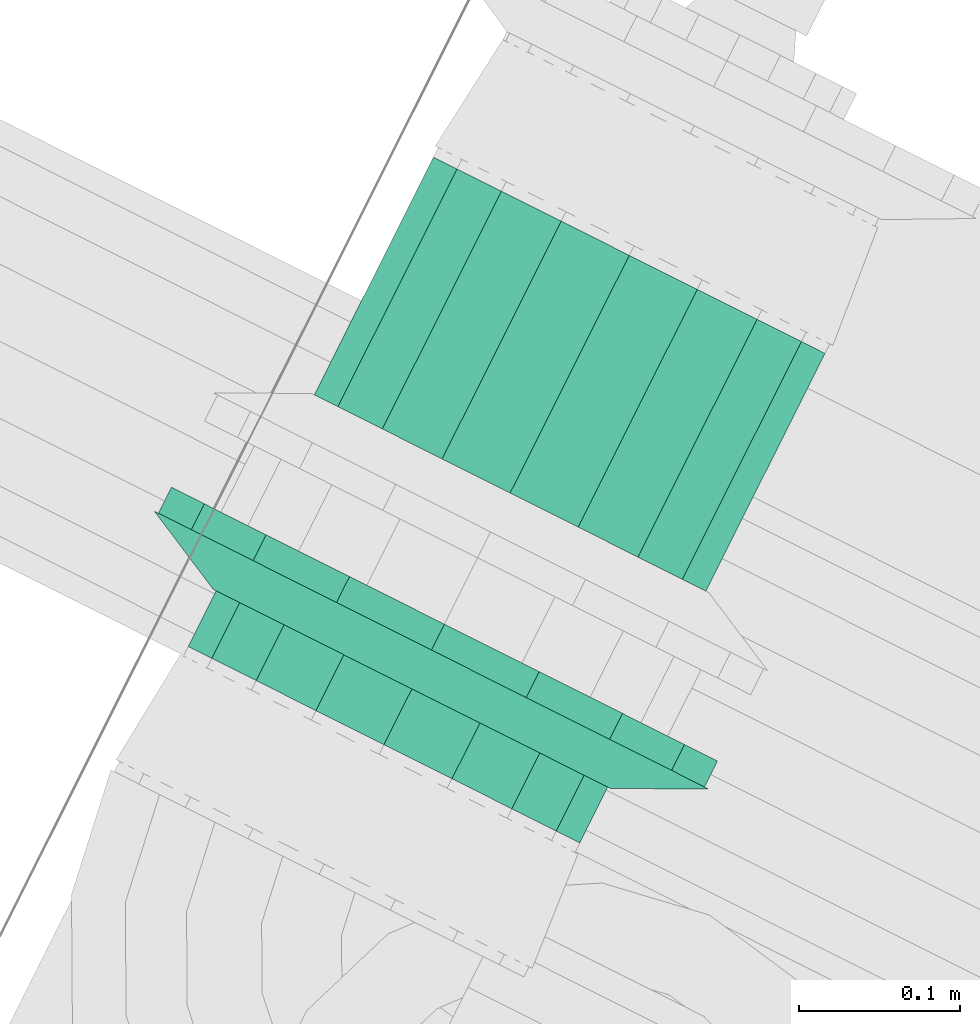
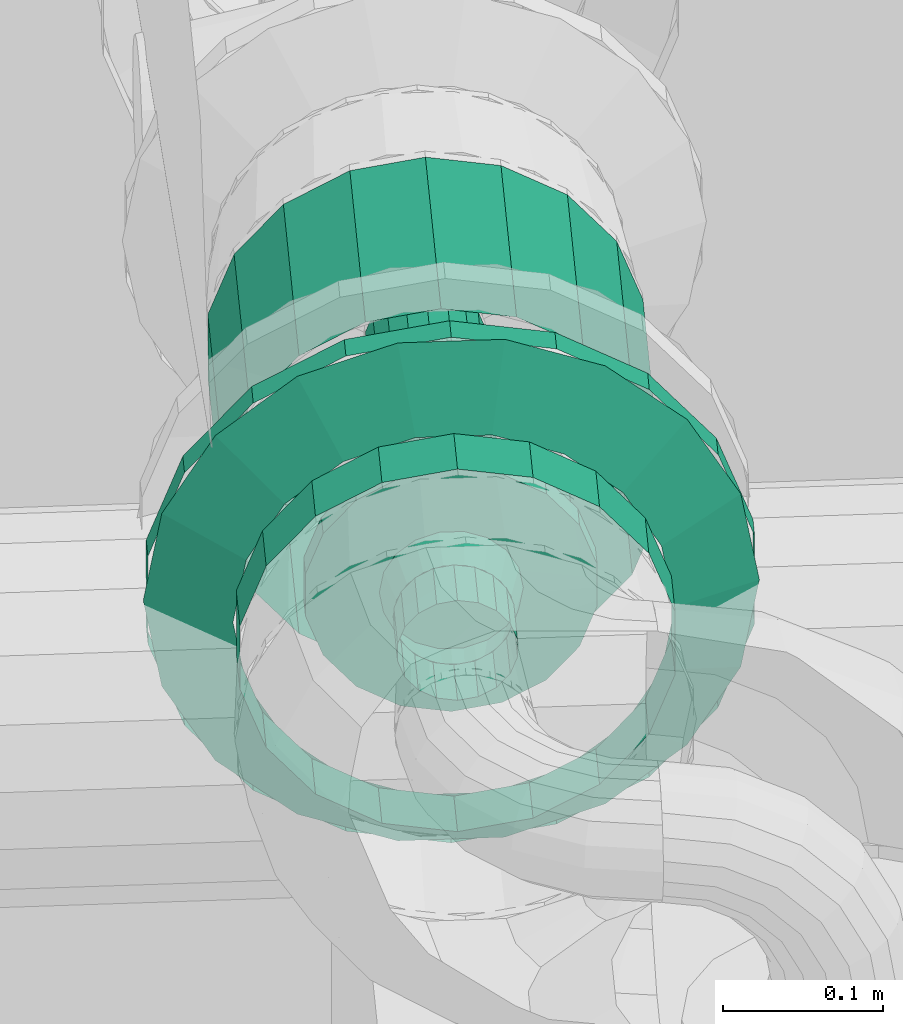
# One storey, part 91 of 206: 2 flow segments, 1 flow fitting.
"""IFC2X3 building model written with IfcOpenShell, lengths in metres."""

from ifc_helpers import new_model, si_unit, derived_unit, direction, frame, origin, place, context, subcontext, project, spatial, face_set, surface_model, source, transform, mapped, material, type_object, type_shapes, element, save


model = new_model("IFC2X3")

# Units and contexts
model_context = context("Model", 3, precision=5.2338327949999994e-05, world=origin(), true_north=direction((0.0, 1.0)))
body_context = subcontext(model_context, "Body", "Model", "MODEL_VIEW")
ifc_project = project(units=[si_unit("LENGTHUNIT", "METRE"), si_unit("AREAUNIT", "SQUARE_METRE"), si_unit("VOLUMEUNIT", "CUBIC_METRE"), si_unit("MASSUNIT", "GRAM", prefix="KILO"), si_unit("PLANEANGLEUNIT", "RADIAN"), derived_unit("THERMALTRANSMITTANCEUNIT", [(si_unit("MASSUNIT", "GRAM", prefix="KILO"), 1), (si_unit("THERMODYNAMICTEMPERATUREUNIT", "KELVIN"), -1), (si_unit("TIMEUNIT", "SECOND"), -3)])], contexts=[model_context])

# Site, building, storey
site_placement = place(None, frame((0.0, 0.0, 0.0), z_axis=(0.0, 0.0, 1.0), x_axis=(0.8939966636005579, -0.4480736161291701, 0.0)))
site = spatial("IfcSite", under=ifc_project, at=site_placement, Name="Default", CompositionType="ELEMENT")
building_placement = place(site_placement, origin())
building = spatial("IfcBuilding", under=site, at=building_placement, CompositionType="ELEMENT")
storey_placement = place(building_placement, origin())
storey = spatial("IfcBuildingStorey", under=building, at=storey_placement, Name="Erdgeschoss", CompositionType="ELEMENT", Elevation=0.0)

# Flow segment
ifc_material = material(Name="IfcSurfaceStyle #1741")
distribution_element_type_1 = type_object("IfcDistributionElementType", Name="Stahlrohr nach DIN 2448 330890:Stahlrohr nach DIN 2448 330890", material=ifc_material)
shared_shape_1 = source(origin(), body_context, "Body", "SurfaceModel", [
    surface_model("IfcFaceBasedSurfaceModel", [(29.960127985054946, 8.677570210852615, 2.2759499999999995), (29.947114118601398, 8.677570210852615, 2.278244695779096), (29.947114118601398, 8.716317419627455, 2.278244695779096), (29.960127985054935, 8.716317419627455, 2.2759500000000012), (29.935669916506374, 8.677570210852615, 2.2848520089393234), (29.935669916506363, 8.716317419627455, 2.284852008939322), (29.927175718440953, 8.677570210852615, 2.2949750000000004), (29.92717571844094, 8.716317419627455, 2.294974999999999), (29.92265605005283, 8.677570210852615, 2.307392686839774), (29.92265605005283, 8.716317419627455, 2.3073926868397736), (29.922656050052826, 8.677570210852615, 2.320607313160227), (29.922656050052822, 8.716317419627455, 2.320607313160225), (29.927175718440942, 8.677570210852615, 2.3330249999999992), (29.927175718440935, 8.716317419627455, 2.333024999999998), (29.935669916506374, 8.677570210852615, 2.3431479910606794), (29.93566991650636, 8.716317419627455, 2.343147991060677), (29.947114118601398, 8.677570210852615, 2.349755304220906), (29.947114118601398, 8.716317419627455, 2.349755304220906), (29.960127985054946, 8.677570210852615, 2.3520499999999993), (29.960127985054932, 8.716317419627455, 2.3520500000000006), (29.973141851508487, 8.677570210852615, 2.3497553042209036), (29.973141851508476, 8.716317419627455, 2.349755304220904), (29.98458605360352, 8.677570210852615, 2.343147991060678), (29.98458605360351, 8.716317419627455, 2.343147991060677), (29.993080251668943, 8.677570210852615, 2.333025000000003), (29.99308025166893, 8.716317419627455, 2.333025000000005), (29.997599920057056, 8.677570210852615, 2.320607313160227), (29.997599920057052, 8.716317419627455, 2.3206073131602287), (29.99759992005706, 8.677570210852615, 2.3073926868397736), (29.997599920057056, 8.716317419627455, 2.3073926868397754), (29.993080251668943, 8.677570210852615, 2.294974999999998), (29.993080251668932, 8.716317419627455, 2.294974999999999), (29.98458605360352, 8.677570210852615, 2.284852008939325), (29.98458605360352, 8.716317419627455, 2.284852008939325), (29.973141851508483, 8.677570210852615, 2.278244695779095), (29.97314185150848, 8.716317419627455, 2.2782446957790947), (29.960127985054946, 8.677570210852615, 2.1759499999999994), (29.912912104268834, 8.677570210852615, 2.184275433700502), (29.91291210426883, 8.716317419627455, 2.184275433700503), (29.960127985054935, 8.716317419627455, 2.175950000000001), (29.87139115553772, 8.677570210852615, 2.2082475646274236), (29.871391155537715, 8.716317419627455, 2.208247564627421), (29.840573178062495, 8.677570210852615, 2.244974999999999), (29.840573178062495, 8.716317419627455, 2.2449749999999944), (29.824175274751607, 8.677570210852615, 2.2900278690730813), (29.8241752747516, 8.716317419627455, 2.290027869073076), (29.824175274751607, 8.677570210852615, 2.3379721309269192), (29.824175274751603, 8.716317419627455, 2.337972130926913), (29.8405731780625, 8.677570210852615, 2.3830250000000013), (29.840573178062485, 8.716317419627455, 2.3830249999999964), (29.871391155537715, 8.677570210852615, 2.4197524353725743), (29.8713911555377, 8.716317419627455, 2.4197524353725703), (29.912912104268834, 8.677570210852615, 2.4437245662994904), (29.912912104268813, 8.716317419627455, 2.443724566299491), (29.960127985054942, 8.677570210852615, 2.45205), (29.96012798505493, 8.716317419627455, 2.4520500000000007), (30.007343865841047, 8.677570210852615, 2.443724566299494), (30.00734386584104, 8.716317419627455, 2.4437245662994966), (30.048864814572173, 8.677570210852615, 2.4197524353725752), (30.04886481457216, 8.716317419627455, 2.4197524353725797), (30.079682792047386, 8.677570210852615, 2.3830249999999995), (30.079682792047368, 8.716317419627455, 2.3830250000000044), (30.09608069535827, 8.677570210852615, 2.3379721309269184), (30.09608069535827, 8.716317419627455, 2.337972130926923), (30.09608069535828, 8.677570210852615, 2.2900278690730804), (30.096080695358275, 8.716317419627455, 2.2900278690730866), (30.079682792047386, 8.677570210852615, 2.244975), (30.079682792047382, 8.716317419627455, 2.2449750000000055), (30.048864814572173, 8.677570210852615, 2.208247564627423), (30.048864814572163, 8.716317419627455, 2.208247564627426), (30.00734386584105, 8.677570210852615, 2.1842754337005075), (30.00734386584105, 8.716317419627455, 2.184275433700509)], [face_set([[[0, 1, 2, 3]], [[1, 4, 5, 2]], [[4, 6, 7, 5]], [[6, 8, 9, 7]], [[8, 10, 11, 9]], [[10, 12, 13, 11]], [[12, 14, 15, 13]], [[14, 16, 17, 15]], [[16, 18, 19, 17]], [[18, 20, 21, 19]], [[20, 22, 23, 21]], [[22, 24, 25, 23]], [[24, 26, 27, 25]], [[26, 28, 29, 27]], [[28, 30, 31, 29]], [[30, 32, 33, 31]], [[32, 34, 35, 33]], [[34, 0, 3, 35]], [[36, 37, 38, 39]], [[37, 40, 41, 38]], [[40, 42, 43, 41]], [[42, 44, 45, 43]], [[44, 46, 47, 45]], [[46, 48, 49, 47]], [[48, 50, 51, 49]], [[50, 52, 53, 51]], [[52, 54, 55, 53]], [[54, 56, 57, 55]], [[56, 58, 59, 57]], [[58, 60, 61, 59]], [[60, 62, 63, 61]], [[62, 64, 65, 63]], [[64, 66, 67, 65]], [[66, 68, 69, 67]], [[68, 70, 71, 69]], [[70, 36, 39, 71]]])]),
])
type_shapes(distribution_element_type_1, [shared_shape_1])
flow_segment_1_placement = place(storey_placement, origin())
element("IfcFlowSegment", 1, at=flow_segment_1_placement, inside=storey, type_object=distribution_element_type_1, material=ifc_material, Name="Stahlrohr nach DIN 2448", ObjectType="Stahlrohr nach DIN 2448", context=body_context, shape_type="MappedRepresentation", body=[
    mapped(shared_shape_1, transform((0.0, 0.0, 0.0), scale=1.0)),
])

# Flow fitting
distribution_element_type_2 = type_object("IfcDistributionElementType", Name="Flansch 331171:Flansch 331171", material=ifc_material)
shared_shape_2 = source(origin(), body_context, "Body", "SurfaceModel", [
    surface_model("IfcFaceBasedSurfaceModel", [(29.92207798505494, 8.716317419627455, 2.314000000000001), (29.924372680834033, 8.716317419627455, 2.3270138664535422), (29.917841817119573, 8.743317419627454, 2.3293909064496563), (29.91512798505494, 8.743317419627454, 2.3140000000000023), (29.930979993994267, 8.716317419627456, 2.338458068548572), (29.925655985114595, 8.743317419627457, 2.3429254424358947), (29.941102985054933, 8.716317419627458, 2.346952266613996), (29.93762798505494, 8.743317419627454, 2.352971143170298), (29.95352067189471, 8.716317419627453, 2.351471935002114), (29.952313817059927, 8.743317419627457, 2.358316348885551), (29.966735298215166, 8.716317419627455, 2.3514719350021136), (29.96794215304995, 8.743317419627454, 2.35831634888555), (29.979152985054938, 8.716317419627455, 2.3469522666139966), (29.98262798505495, 8.743317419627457, 2.3529711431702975), (29.989275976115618, 8.716317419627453, 2.338458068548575), (29.99459998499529, 8.743317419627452, 2.342925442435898), (29.995883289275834, 8.716317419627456, 2.32701386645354), (30.002414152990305, 8.743317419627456, 2.329390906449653), (29.99817798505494, 8.716317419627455, 2.314), (30.005127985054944, 8.743317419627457, 2.314), (29.99588328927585, 8.716317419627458, 2.3009861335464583), (30.00241415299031, 8.743317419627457, 2.2986090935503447), (29.98927597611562, 8.716317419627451, 2.2895419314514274), (29.99459998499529, 8.743317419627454, 2.2850745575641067), (29.979152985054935, 8.716317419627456, 2.281047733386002), (29.982627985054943, 8.743317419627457, 2.275028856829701), (29.966735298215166, 8.716317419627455, 2.276528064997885), (29.96794215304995, 8.743317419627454, 2.26968365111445), (29.95352067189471, 8.716317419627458, 2.2765280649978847), (29.952313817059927, 8.743317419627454, 2.26968365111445), (29.94110298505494, 8.716317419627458, 2.2810477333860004), (29.93762798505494, 8.743317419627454, 2.2750288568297), (29.93097999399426, 8.716317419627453, 2.289541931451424), (29.92565598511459, 8.743317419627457, 2.285074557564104), (29.92437268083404, 8.716317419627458, 2.300986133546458), (29.917841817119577, 8.743317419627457, 2.298609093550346), (29.960127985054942, 8.743317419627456, 2.4065), (29.991764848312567, 8.743317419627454, 2.4009215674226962), (29.991764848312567, 8.761317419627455, 2.4009215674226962), (29.960127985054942, 8.761317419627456, 2.4065), (30.019585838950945, 8.743317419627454, 2.384859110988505), (30.019585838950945, 8.761317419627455, 2.3848591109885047), (30.040235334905, 8.743317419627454, 2.3602500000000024), (30.040235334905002, 8.761317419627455, 2.360250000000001), (30.051222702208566, 8.743317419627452, 2.3300624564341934), (30.051222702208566, 8.761317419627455, 2.3300624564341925), (30.051222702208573, 8.743317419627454, 2.29793754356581), (30.051222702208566, 8.761317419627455, 2.2979375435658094), (30.040235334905, 8.743317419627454, 2.267750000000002), (30.040235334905, 8.761317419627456, 2.2677500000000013), (30.019585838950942, 8.743317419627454, 2.243140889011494), (30.019585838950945, 8.761317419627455, 2.243140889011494), (29.991764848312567, 8.74331741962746, 2.2270784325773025), (29.991764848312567, 8.761317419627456, 2.2270784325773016), (29.960127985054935, 8.743317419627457, 2.221500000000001), (29.960127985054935, 8.761317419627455, 2.221500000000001), (29.928491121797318, 8.74331741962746, 2.227078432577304), (29.928491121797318, 8.761317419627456, 2.2270784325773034), (29.900670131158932, 8.743317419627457, 2.243140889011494), (29.900670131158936, 8.761317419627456, 2.2431408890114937), (29.88002063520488, 8.743317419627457, 2.267750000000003), (29.880020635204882, 8.761317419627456, 2.267750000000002), (29.869033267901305, 8.743317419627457, 2.297937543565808), (29.869033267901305, 8.761317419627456, 2.297937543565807), (29.869033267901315, 8.743317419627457, 2.3300624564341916), (29.869033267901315, 8.761317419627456, 2.3300624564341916), (29.88002063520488, 8.743317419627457, 2.360249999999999), (29.88002063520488, 8.761317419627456, 2.360249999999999), (29.900670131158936, 8.743317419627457, 2.384859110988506), (29.90067013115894, 8.76131741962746, 2.384859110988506), (29.928491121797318, 8.743317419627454, 2.4009215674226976), (29.928491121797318, 8.761317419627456, 2.4009215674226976), (29.960127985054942, 8.743317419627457, 2.314000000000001), (29.822077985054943, 8.716317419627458, 2.3139999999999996), (29.830403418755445, 8.716317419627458, 2.36121588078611), (29.77923715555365, 8.743317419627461, 2.379838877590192), (29.76762798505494, 8.743317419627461, 2.314000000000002), (29.854375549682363, 8.71631741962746, 2.4027368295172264), (29.812664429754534, 8.743317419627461, 2.4377366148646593), (29.891102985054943, 8.716317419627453, 2.4335548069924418), (29.863877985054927, 8.743317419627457, 2.4807098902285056), (29.936155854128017, 8.716317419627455, 2.4499527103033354), (29.92670071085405, 8.743317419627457, 2.5035754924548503), (29.984100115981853, 8.716317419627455, 2.449952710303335), (29.993555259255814, 8.743317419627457, 2.5035754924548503), (30.02915298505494, 8.716317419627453, 2.4335548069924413), (30.05637798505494, 8.743317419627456, 2.480709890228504), (30.06588042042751, 8.716317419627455, 2.4027368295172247), (30.107591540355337, 8.743317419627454, 2.437736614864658), (30.089852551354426, 8.716317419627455, 2.361215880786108), (30.141018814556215, 8.743317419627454, 2.3798388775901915), (30.098177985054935, 8.716317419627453, 2.3139999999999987), (30.152627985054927, 8.743317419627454, 2.314), (30.08985255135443, 8.716317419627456, 2.26678411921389), (30.14101881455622, 8.743317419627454, 2.248161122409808), (30.06588042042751, 8.716317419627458, 2.2252631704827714), (30.107591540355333, 8.743317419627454, 2.1902633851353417), (30.02915298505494, 8.716317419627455, 2.1944451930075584), (30.05637798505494, 8.743317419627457, 2.1472901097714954), (29.984100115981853, 8.716317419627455, 2.1780472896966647), (29.99355525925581, 8.743317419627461, 2.124424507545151), (29.936155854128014, 8.716317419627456, 2.1780472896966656), (29.926700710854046, 8.743317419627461, 2.124424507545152), (29.891102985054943, 8.71631741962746, 2.1944451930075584), (29.863877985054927, 8.743317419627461, 2.1472901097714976), (29.854375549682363, 8.71631741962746, 2.225263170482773), (29.812664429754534, 8.743317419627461, 2.1902633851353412), (29.830403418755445, 8.71631741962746, 2.266784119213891), (29.779237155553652, 8.743317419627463, 2.248161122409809), (29.960127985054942, 8.743317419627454, 2.5065000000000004), (30.025966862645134, 8.743317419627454, 2.494890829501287), (30.025966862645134, 8.761317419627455, 2.4948908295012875), (29.960127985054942, 8.761317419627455, 2.506500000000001), (30.083864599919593, 8.743317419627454, 2.4614635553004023), (30.083864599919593, 8.761317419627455, 2.4614635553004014), (30.126837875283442, 8.743317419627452, 2.4102499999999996), (30.126837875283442, 8.761317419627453, 2.4102500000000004), (30.149703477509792, 8.743317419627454, 2.347427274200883), (30.149703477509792, 8.761317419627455, 2.347427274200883), (30.149703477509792, 8.743317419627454, 2.2805727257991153), (30.149703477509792, 8.761317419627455, 2.2805727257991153), (30.126837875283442, 8.743317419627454, 2.2177499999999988), (30.126837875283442, 8.761317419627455, 2.2177499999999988), (30.083864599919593, 8.743317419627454, 2.166536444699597), (30.083864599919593, 8.761317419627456, 2.166536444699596), (30.02596686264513, 8.743317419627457, 2.133109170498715), (30.02596686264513, 8.761317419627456, 2.133109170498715), (29.960127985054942, 8.74331741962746, 2.121500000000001), (29.960127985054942, 8.761317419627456, 2.121500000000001), (29.894289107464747, 8.74331741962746, 2.1331091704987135), (29.894289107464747, 8.761317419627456, 2.1331091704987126), (29.836391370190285, 8.74331741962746, 2.1665364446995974), (29.836391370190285, 8.761317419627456, 2.1665364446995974), (29.793418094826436, 8.74331741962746, 2.217750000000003), (29.79341809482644, 8.761317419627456, 2.217750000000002), (29.77055249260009, 8.743317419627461, 2.2805727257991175), (29.77055249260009, 8.76131741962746, 2.2805727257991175), (29.770552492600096, 8.743317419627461, 2.3474272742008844), (29.7705524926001, 8.76131741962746, 2.347427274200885), (29.793418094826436, 8.743317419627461, 2.4102499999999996), (29.793418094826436, 8.761317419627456, 2.4102499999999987), (29.83639137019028, 8.743317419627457, 2.461463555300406), (29.83639137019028, 8.761317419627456, 2.461463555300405), (29.89428910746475, 8.743317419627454, 2.494890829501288), (29.89428910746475, 8.761317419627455, 2.4948908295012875)], [face_set([[[0, 1, 2, 3]], [[1, 4, 5, 2]], [[4, 6, 7, 5]], [[6, 8, 9, 7]], [[8, 10, 11, 9]], [[10, 12, 13, 11]], [[12, 14, 15, 13]], [[14, 16, 17, 15]], [[16, 18, 19, 17]], [[18, 20, 21, 19]], [[20, 22, 23, 21]], [[22, 24, 25, 23]], [[24, 26, 27, 25]], [[26, 28, 29, 27]], [[28, 30, 31, 29]], [[30, 32, 33, 31]], [[32, 34, 35, 33]], [[34, 0, 3, 35]], [[36, 37, 38, 39]], [[37, 40, 41, 38]], [[40, 42, 43, 41]], [[42, 44, 45, 43]], [[44, 46, 47, 45]], [[46, 48, 49, 47]], [[48, 50, 51, 49]], [[50, 52, 53, 51]], [[52, 54, 55, 53]], [[54, 56, 57, 55]], [[56, 58, 59, 57]], [[58, 60, 61, 59]], [[60, 62, 63, 61]], [[62, 64, 65, 63]], [[64, 66, 67, 65]], [[66, 68, 69, 67]], [[68, 70, 71, 69]], [[70, 36, 39, 71]], [[72, 37, 36]], [[72, 40, 37]], [[72, 42, 40]], [[72, 44, 42]], [[72, 46, 44]], [[72, 48, 46]], [[72, 50, 48]], [[72, 52, 50]], [[72, 54, 52]], [[72, 56, 54]], [[72, 58, 56]], [[72, 60, 58]], [[72, 62, 60]], [[72, 64, 62]], [[72, 66, 64]], [[72, 68, 66]], [[72, 70, 68]], [[72, 36, 70]], [[73, 74, 75, 76]], [[74, 77, 78, 75]], [[77, 79, 80, 78]], [[79, 81, 82, 80]], [[81, 83, 84, 82]], [[83, 85, 86, 84]], [[85, 87, 88, 86]], [[87, 89, 90, 88]], [[89, 91, 92, 90]], [[91, 93, 94, 92]], [[93, 95, 96, 94]], [[95, 97, 98, 96]], [[97, 99, 100, 98]], [[99, 101, 102, 100]], [[101, 103, 104, 102]], [[103, 105, 106, 104]], [[105, 107, 108, 106]], [[107, 73, 76, 108]], [[109, 110, 111, 112]], [[110, 113, 114, 111]], [[113, 115, 116, 114]], [[115, 117, 118, 116]], [[117, 119, 120, 118]], [[119, 121, 122, 120]], [[121, 123, 124, 122]], [[123, 125, 126, 124]], [[125, 127, 128, 126]], [[127, 129, 130, 128]], [[129, 131, 132, 130]], [[131, 133, 134, 132]], [[133, 135, 136, 134]], [[135, 137, 138, 136]], [[137, 139, 140, 138]], [[139, 141, 142, 140]], [[141, 143, 144, 142]], [[143, 109, 112, 144]]])]),
])
type_shapes(distribution_element_type_2, [shared_shape_2])
flow_fitting_placement = place(storey_placement, origin())
element("IfcFlowFitting", 2, at=flow_fitting_placement, inside=storey, type_object=distribution_element_type_2, material=ifc_material, Name="Flansch", ObjectType="Flansch", context=body_context, shape_type="MappedRepresentation", body=[
    mapped(shared_shape_2, transform((0.0, 0.0, 0.0), scale=1.0)),
])

# Flow segment
distribution_element_type_3 = type_object("IfcDistributionElementType", Name="Stahlrohr nach DIN 2448 331200:Stahlrohr nach DIN 2448 331200", material=ifc_material)
shared_shape_3 = source(origin(), body_context, "Body", "SurfaceModel", [
    surface_model("IfcFaceBasedSurfaceModel", [(29.960127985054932, 8.852317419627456, 2.3520499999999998), (29.97314185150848, 8.852317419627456, 2.349755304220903), (29.97314185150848, 9.017419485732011, 2.349755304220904), (29.960127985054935, 9.017419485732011, 2.3520499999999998), (29.984586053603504, 8.852317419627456, 2.343147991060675), (29.984586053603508, 9.017419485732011, 2.343147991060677), (29.99308025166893, 8.852317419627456, 2.3330249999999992), (29.99308025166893, 9.017419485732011, 2.3330250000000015), (29.99759992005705, 8.852317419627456, 2.320607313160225), (29.99759992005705, 9.017419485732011, 2.3206073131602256), (29.997599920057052, 8.852317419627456, 2.3073926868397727), (29.997599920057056, 9.017419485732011, 2.307392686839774), (29.993080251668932, 8.852317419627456, 2.294974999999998), (29.993080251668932, 9.017419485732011, 2.2949749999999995), (29.984586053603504, 8.852317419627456, 2.2848520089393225), (29.984586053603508, 9.017419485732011, 2.2848520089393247), (29.97314185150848, 8.852317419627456, 2.278244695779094), (29.97314185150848, 9.017419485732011, 2.2782446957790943), (29.960127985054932, 8.852317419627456, 2.2759500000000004), (29.960127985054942, 9.017419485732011, 2.2759500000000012), (29.947114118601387, 8.852317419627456, 2.278244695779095), (29.9471141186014, 9.017419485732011, 2.278244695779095), (29.93566991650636, 8.852317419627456, 2.284852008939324), (29.935669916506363, 9.017419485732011, 2.2848520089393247), (29.927175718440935, 8.852317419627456, 2.2949750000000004), (29.92717571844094, 9.017419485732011, 2.2949749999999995), (29.922656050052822, 8.852317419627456, 2.3073926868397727), (29.922656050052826, 9.017419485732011, 2.3073926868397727), (29.922656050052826, 8.852317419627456, 2.320607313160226), (29.92265605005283, 9.017419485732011, 2.320607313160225), (29.927175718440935, 8.852317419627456, 2.333025), (29.92717571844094, 9.017419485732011, 2.3330249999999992), (29.93566991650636, 8.852317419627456, 2.3431479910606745), (29.93566991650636, 9.017419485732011, 2.3431479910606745), (29.947114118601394, 8.852317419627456, 2.349755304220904), (29.947114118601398, 9.017419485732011, 2.3497553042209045), (29.960127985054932, 8.852317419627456, 2.4520500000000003), (30.007343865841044, 8.852317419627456, 2.4437245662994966), (30.007343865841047, 9.017419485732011, 2.4437245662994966), (29.960127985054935, 9.017419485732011, 2.4520500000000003), (30.04886481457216, 8.852317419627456, 2.419752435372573), (30.048864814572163, 9.017419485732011, 2.419752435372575), (30.079682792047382, 8.852317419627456, 2.3830250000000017), (30.079682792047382, 9.017419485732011, 2.3830250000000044), (30.09608069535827, 8.852317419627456, 2.337972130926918), (30.09608069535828, 9.017419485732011, 2.33797213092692), (30.09608069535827, 8.852317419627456, 2.2900278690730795), (30.096080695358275, 9.017419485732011, 2.2900278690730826), (30.079682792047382, 8.852317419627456, 2.2449749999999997), (30.079682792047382, 9.017419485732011, 2.244975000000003), (30.048864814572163, 8.852317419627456, 2.208247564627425), (30.048864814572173, 9.017419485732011, 2.2082475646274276), (30.007343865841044, 8.852317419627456, 2.1842754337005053), (30.007343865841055, 9.017419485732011, 2.1842754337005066), (29.960127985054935, 8.852317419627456, 2.1759499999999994), (29.960127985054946, 9.017419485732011, 2.17595), (29.91291210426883, 8.852317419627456, 2.1842754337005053), (29.912912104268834, 9.017419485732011, 2.1842754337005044), (29.871391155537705, 8.852317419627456, 2.208247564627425), (29.871391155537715, 9.017419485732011, 2.208247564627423), (29.840573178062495, 8.852317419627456, 2.244975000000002), (29.8405731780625, 9.017419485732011, 2.2449749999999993), (29.824175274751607, 8.852317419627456, 2.290027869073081), (29.82417527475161, 9.017419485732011, 2.290027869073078), (29.824175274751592, 8.852317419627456, 2.3379721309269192), (29.8241752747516, 9.017419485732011, 2.3379721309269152), (29.840573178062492, 8.852317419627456, 2.3830249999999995), (29.840573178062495, 9.017419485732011, 2.383024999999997), (29.871391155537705, 8.852317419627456, 2.4197524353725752), (29.871391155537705, 9.017419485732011, 2.419752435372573), (29.912912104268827, 8.852317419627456, 2.4437245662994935), (29.91291210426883, 9.017419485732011, 2.4437245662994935)], [face_set([[[0, 1, 2, 3]], [[1, 4, 5, 2]], [[4, 6, 7, 5]], [[6, 8, 9, 7]], [[8, 10, 11, 9]], [[10, 12, 13, 11]], [[12, 14, 15, 13]], [[14, 16, 17, 15]], [[16, 18, 19, 17]], [[18, 20, 21, 19]], [[20, 22, 23, 21]], [[22, 24, 25, 23]], [[24, 26, 27, 25]], [[26, 28, 29, 27]], [[28, 30, 31, 29]], [[30, 32, 33, 31]], [[32, 34, 35, 33]], [[34, 0, 3, 35]], [[36, 37, 38, 39]], [[37, 40, 41, 38]], [[40, 42, 43, 41]], [[42, 44, 45, 43]], [[44, 46, 47, 45]], [[46, 48, 49, 47]], [[48, 50, 51, 49]], [[50, 52, 53, 51]], [[52, 54, 55, 53]], [[54, 56, 57, 55]], [[56, 58, 59, 57]], [[58, 60, 61, 59]], [[60, 62, 63, 61]], [[62, 64, 65, 63]], [[64, 66, 67, 65]], [[66, 68, 69, 67]], [[68, 70, 71, 69]], [[70, 36, 39, 71]]])]),
])
type_shapes(distribution_element_type_3, [shared_shape_3])
flow_segment_2_placement = place(storey_placement, origin())
element("IfcFlowSegment", 3, at=flow_segment_2_placement, inside=storey, type_object=distribution_element_type_3, material=ifc_material, Name="Stahlrohr nach DIN 2448", ObjectType="Stahlrohr nach DIN 2448", context=body_context, shape_type="MappedRepresentation", body=[
    mapped(shared_shape_3, transform((0.0, 0.0, 0.0), scale=1.0)),
])

save(model, "model.ifc")
